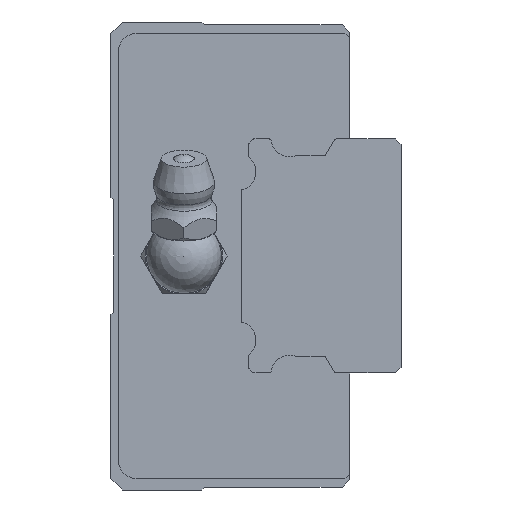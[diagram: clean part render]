
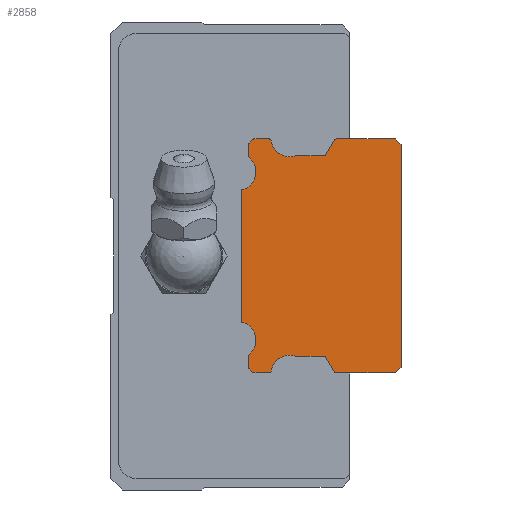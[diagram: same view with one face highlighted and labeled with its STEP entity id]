
A CAD part, left-side view. The second image highlights one B-rep face of the part: STEP entity #2858.
In plain terms, the highlighted planar face has unit normal (-1, 0, 0).
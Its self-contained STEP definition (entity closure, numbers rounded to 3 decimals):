
#93=CIRCLE('',#3042,0.2);
#95=CIRCLE('',#3045,2.);
#97=CIRCLE('',#3049,0.3);
#99=CIRCLE('',#3053,0.3);
#107=CIRCLE('',#3067,0.3);
#109=CIRCLE('',#3071,0.3);
#111=CIRCLE('',#3075,2.);
#113=CIRCLE('',#3078,0.2);
#115=CIRCLE('',#3082,0.2);
#117=CIRCLE('',#3086,0.2);
#119=CIRCLE('',#3090,2.);
#127=CIRCLE('',#3100,2.);
#129=CIRCLE('',#3104,0.2);
#131=CIRCLE('',#3108,0.2);
#448=ORIENTED_EDGE('',*,*,#1082,.F.);
#449=ORIENTED_EDGE('',*,*,#1182,.F.);
#450=ORIENTED_EDGE('',*,*,#1179,.F.);
#451=ORIENTED_EDGE('',*,*,#1176,.F.);
#452=ORIENTED_EDGE('',*,*,#1173,.F.);
#453=ORIENTED_EDGE('',*,*,#1170,.T.);
#454=ORIENTED_EDGE('',*,*,#1167,.F.);
#455=ORIENTED_EDGE('',*,*,#1158,.T.);
#456=ORIENTED_EDGE('',*,*,#1155,.F.);
#457=ORIENTED_EDGE('',*,*,#1152,.F.);
#458=ORIENTED_EDGE('',*,*,#1149,.F.);
#459=ORIENTED_EDGE('',*,*,#1146,.F.);
#460=ORIENTED_EDGE('',*,*,#1143,.F.);
#461=ORIENTED_EDGE('',*,*,#1140,.F.);
#462=ORIENTED_EDGE('',*,*,#1137,.T.);
#463=ORIENTED_EDGE('',*,*,#1134,.F.);
#464=ORIENTED_EDGE('',*,*,#1131,.T.);
#465=ORIENTED_EDGE('',*,*,#1128,.F.);
#466=ORIENTED_EDGE('',*,*,#1125,.F.);
#467=ORIENTED_EDGE('',*,*,#1122,.F.);
#468=ORIENTED_EDGE('',*,*,#1119,.F.);
#469=ORIENTED_EDGE('',*,*,#1116,.F.);
#470=ORIENTED_EDGE('',*,*,#1107,.F.);
#471=ORIENTED_EDGE('',*,*,#1104,.F.);
#472=ORIENTED_EDGE('',*,*,#1101,.F.);
#473=ORIENTED_EDGE('',*,*,#1098,.F.);
#474=ORIENTED_EDGE('',*,*,#1095,.T.);
#475=ORIENTED_EDGE('',*,*,#1092,.F.);
#476=ORIENTED_EDGE('',*,*,#1089,.T.);
#477=ORIENTED_EDGE('',*,*,#1086,.F.);
#1082=EDGE_CURVE('',#1480,#1481,#1769,.T.);
#1086=EDGE_CURVE('',#1481,#1484,#93,.T.);
#1089=EDGE_CURVE('',#1486,#1484,#95,.T.);
#1092=EDGE_CURVE('',#1486,#1488,#1775,.T.);
#1095=EDGE_CURVE('',#1490,#1488,#97,.T.);
#1098=EDGE_CURVE('',#1490,#1492,#1779,.T.);
#1101=EDGE_CURVE('',#1492,#1494,#99,.T.);
#1104=EDGE_CURVE('',#1494,#1496,#1783,.T.);
#1107=EDGE_CURVE('',#1496,#1498,#1786,.T.);
#1116=EDGE_CURVE('',#1498,#1506,#1789,.T.);
#1119=EDGE_CURVE('',#1506,#1508,#1792,.T.);
#1122=EDGE_CURVE('',#1508,#1510,#1795,.T.);
#1125=EDGE_CURVE('',#1510,#1512,#107,.T.);
#1128=EDGE_CURVE('',#1512,#1514,#1799,.T.);
#1131=EDGE_CURVE('',#1516,#1514,#109,.T.);
#1134=EDGE_CURVE('',#1516,#1518,#1803,.T.);
#1137=EDGE_CURVE('',#1520,#1518,#111,.T.);
#1140=EDGE_CURVE('',#1520,#1522,#113,.T.);
#1143=EDGE_CURVE('',#1522,#1524,#1808,.T.);
#1146=EDGE_CURVE('',#1524,#1526,#115,.T.);
#1149=EDGE_CURVE('',#1526,#1528,#1812,.T.);
#1152=EDGE_CURVE('',#1528,#1530,#117,.T.);
#1155=EDGE_CURVE('',#1530,#1532,#1816,.T.);
#1158=EDGE_CURVE('',#1534,#1532,#119,.T.);
#1167=EDGE_CURVE('',#1534,#1542,#1820,.T.);
#1170=EDGE_CURVE('',#1544,#1542,#127,.T.);
#1173=EDGE_CURVE('',#1544,#1546,#1824,.T.);
#1176=EDGE_CURVE('',#1546,#1548,#129,.T.);
#1179=EDGE_CURVE('',#1548,#1550,#1828,.T.);
#1182=EDGE_CURVE('',#1550,#1480,#131,.T.);
#1480=VERTEX_POINT('',#4232);
#1481=VERTEX_POINT('',#4233);
#1484=VERTEX_POINT('',#4241);
#1486=VERTEX_POINT('',#4247);
#1488=VERTEX_POINT('',#4253);
#1490=VERTEX_POINT('',#4259);
#1492=VERTEX_POINT('',#4265);
#1494=VERTEX_POINT('',#4271);
#1496=VERTEX_POINT('',#4277);
#1498=VERTEX_POINT('',#4283);
#1506=VERTEX_POINT('',#4301);
#1508=VERTEX_POINT('',#4307);
#1510=VERTEX_POINT('',#4313);
#1512=VERTEX_POINT('',#4319);
#1514=VERTEX_POINT('',#4325);
#1516=VERTEX_POINT('',#4331);
#1518=VERTEX_POINT('',#4337);
#1520=VERTEX_POINT('',#4343);
#1522=VERTEX_POINT('',#4349);
#1524=VERTEX_POINT('',#4355);
#1526=VERTEX_POINT('',#4361);
#1528=VERTEX_POINT('',#4367);
#1530=VERTEX_POINT('',#4373);
#1532=VERTEX_POINT('',#4379);
#1534=VERTEX_POINT('',#4385);
#1542=VERTEX_POINT('',#4403);
#1544=VERTEX_POINT('',#4409);
#1546=VERTEX_POINT('',#4415);
#1548=VERTEX_POINT('',#4421);
#1550=VERTEX_POINT('',#4427);
#1769=LINE('',#4231,#2005);
#1775=LINE('',#4252,#2011);
#1779=LINE('',#4264,#2015);
#1783=LINE('',#4276,#2019);
#1786=LINE('',#4282,#2022);
#1789=LINE('',#4300,#2025);
#1792=LINE('',#4306,#2028);
#1795=LINE('',#4312,#2031);
#1799=LINE('',#4324,#2035);
#1803=LINE('',#4336,#2039);
#1808=LINE('',#4354,#2044);
#1812=LINE('',#4366,#2048);
#1816=LINE('',#4378,#2052);
#1820=LINE('',#4402,#2056);
#1824=LINE('',#4414,#2060);
#1828=LINE('',#4426,#2064);
#2005=VECTOR('',#3361,1000.);
#2011=VECTOR('',#3381,1000.);
#2015=VECTOR('',#3393,1000.);
#2019=VECTOR('',#3405,1000.);
#2022=VECTOR('',#3410,1000.);
#2025=VECTOR('',#3427,1000.);
#2028=VECTOR('',#3432,1000.);
#2031=VECTOR('',#3437,1000.);
#2035=VECTOR('',#3449,1000.);
#2039=VECTOR('',#3461,1000.);
#2044=VECTOR('',#3480,1000.);
#2048=VECTOR('',#3492,1000.);
#2052=VECTOR('',#3504,1000.);
#2056=VECTOR('',#3528,1000.);
#2060=VECTOR('',#3540,1000.);
#2064=VECTOR('',#3552,1000.);
#2284=EDGE_LOOP('',(#448,#449,#450,#451,#452,#453,#454,#455,#456,#457,#458,
#459,#460,#461,#462,#463,#464,#465,#466,#467,#468,#469,#470,#471,#472,#473,
#474,#475,#476,#477));
#2527=FACE_BOUND('',#2284,.T.);
#2750=PLANE('',#3111);
#2858=ADVANCED_FACE('',(#2527),#2750,.F.);
#3042=AXIS2_PLACEMENT_3D('',#4240,#3367,#3368);
#3045=AXIS2_PLACEMENT_3D('',#4246,#3374,#3375);
#3049=AXIS2_PLACEMENT_3D('',#4258,#3386,#3387);
#3053=AXIS2_PLACEMENT_3D('',#4270,#3398,#3399);
#3067=AXIS2_PLACEMENT_3D('',#4318,#3442,#3443);
#3071=AXIS2_PLACEMENT_3D('',#4330,#3454,#3455);
#3075=AXIS2_PLACEMENT_3D('',#4342,#3466,#3467);
#3078=AXIS2_PLACEMENT_3D('',#4348,#3473,#3474);
#3082=AXIS2_PLACEMENT_3D('',#4360,#3485,#3486);
#3086=AXIS2_PLACEMENT_3D('',#4372,#3497,#3498);
#3090=AXIS2_PLACEMENT_3D('',#4384,#3509,#3510);
#3100=AXIS2_PLACEMENT_3D('',#4408,#3533,#3534);
#3104=AXIS2_PLACEMENT_3D('',#4420,#3545,#3546);
#3108=AXIS2_PLACEMENT_3D('',#4432,#3557,#3558);
#3111=AXIS2_PLACEMENT_3D('',#4435,#3563,#3564);
#3361=DIRECTION('',(0.,-1.,0.));
#3367=DIRECTION('',(1.,0.,0.));
#3368=DIRECTION('',(0.,0.,-1.));
#3374=DIRECTION('',(1.,0.,0.));
#3375=DIRECTION('',(0.,0.,-1.));
#3381=DIRECTION('',(0.,-1.,0.));
#3386=DIRECTION('',(1.,0.,0.));
#3387=DIRECTION('',(0.,0.,-1.));
#3393=DIRECTION('',(0.,-0.506,0.862));
#3398=DIRECTION('',(1.,0.,0.));
#3399=DIRECTION('',(0.,0.,-1.));
#3405=DIRECTION('',(0.,-1.,0.));
#3410=DIRECTION('',(0.,-0.707,-0.707));
#3427=DIRECTION('',(0.,0.,-1.));
#3432=DIRECTION('',(0.,0.707,-0.707));
#3437=DIRECTION('',(0.,1.,0.));
#3442=DIRECTION('',(1.,0.,0.));
#3443=DIRECTION('',(0.,0.,-1.));
#3449=DIRECTION('',(0.,0.506,0.862));
#3454=DIRECTION('',(1.,0.,0.));
#3455=DIRECTION('',(0.,0.,-1.));
#3461=DIRECTION('',(0.,1.,0.));
#3466=DIRECTION('',(1.,0.,0.));
#3467=DIRECTION('',(0.,0.,-1.));
#3473=DIRECTION('',(1.,0.,0.));
#3474=DIRECTION('',(0.,0.,-1.));
#3480=DIRECTION('',(0.,1.,0.));
#3485=DIRECTION('',(1.,0.,0.));
#3486=DIRECTION('',(0.,0.,-1.));
#3492=DIRECTION('',(0.,0.707,0.707));
#3497=DIRECTION('',(1.,0.,0.));
#3498=DIRECTION('',(0.,0.,-1.));
#3504=DIRECTION('',(0.,0.,1.));
#3509=DIRECTION('',(1.,0.,0.));
#3510=DIRECTION('',(0.,0.,-1.));
#3528=DIRECTION('',(0.,0.,1.));
#3533=DIRECTION('',(1.,0.,0.));
#3534=DIRECTION('',(0.,0.,-1.));
#3540=DIRECTION('',(0.,0.,1.));
#3545=DIRECTION('',(1.,0.,0.));
#3546=DIRECTION('',(0.,0.,-1.));
#3552=DIRECTION('',(0.,-0.707,0.707));
#3557=DIRECTION('',(1.,0.,0.));
#3558=DIRECTION('',(0.,0.,-1.));
#3563=DIRECTION('',(1.,0.,0.));
#3564=DIRECTION('',(0.,0.,-1.));
#4231=CARTESIAN_POINT('',(-15.,15.717,12.5));
#4232=CARTESIAN_POINT('',(-15.,15.717,12.5));
#4233=CARTESIAN_POINT('',(-15.,14.079,12.5));
#4240=CARTESIAN_POINT('',(-15.,14.079,12.3));
#4241=CARTESIAN_POINT('',(-15.,13.881,12.327));
#4246=CARTESIAN_POINT('',(-15.,11.9,12.6));
#4247=CARTESIAN_POINT('',(-15.,11.276,10.7));
#4252=CARTESIAN_POINT('',(-15.,11.276,10.7));
#4253=CARTESIAN_POINT('',(-15.,8.3,10.7));
#4258=CARTESIAN_POINT('',(-15.,8.3,11.));
#4259=CARTESIAN_POINT('',(-15.,8.041,10.848));
#4264=CARTESIAN_POINT('',(-15.,8.041,10.848));
#4265=CARTESIAN_POINT('',(-15.,7.159,12.352));
#4270=CARTESIAN_POINT('',(-15.,6.9,12.2));
#4271=CARTESIAN_POINT('',(-15.,6.9,12.5));
#4276=CARTESIAN_POINT('',(-15.,6.9,12.5));
#4277=CARTESIAN_POINT('',(-15.,0.6,12.5));
#4282=CARTESIAN_POINT('',(-15.,0.6,12.5));
#4283=CARTESIAN_POINT('',(-15.,0.,11.9));
#4300=CARTESIAN_POINT('',(-15.,0.,11.9));
#4301=CARTESIAN_POINT('',(-15.,0.,-11.9));
#4306=CARTESIAN_POINT('',(-15.,0.,-11.9));
#4307=CARTESIAN_POINT('',(-15.,0.6,-12.5));
#4312=CARTESIAN_POINT('',(-15.,0.6,-12.5));
#4313=CARTESIAN_POINT('',(-15.,6.9,-12.5));
#4318=CARTESIAN_POINT('',(-15.,6.9,-12.2));
#4319=CARTESIAN_POINT('',(-15.,7.159,-12.352));
#4324=CARTESIAN_POINT('',(-15.,7.159,-12.352));
#4325=CARTESIAN_POINT('',(-15.,8.041,-10.848));
#4330=CARTESIAN_POINT('',(-15.,8.3,-11.));
#4331=CARTESIAN_POINT('',(-15.,8.3,-10.7));
#4336=CARTESIAN_POINT('',(-15.,8.3,-10.7));
#4337=CARTESIAN_POINT('',(-15.,11.276,-10.7));
#4342=CARTESIAN_POINT('',(-15.,11.9,-12.6));
#4343=CARTESIAN_POINT('',(-15.,13.881,-12.327));
#4348=CARTESIAN_POINT('',(-15.,14.079,-12.3));
#4349=CARTESIAN_POINT('',(-15.,14.079,-12.5));
#4354=CARTESIAN_POINT('',(-15.,14.079,-12.5));
#4355=CARTESIAN_POINT('',(-15.,15.717,-12.5));
#4360=CARTESIAN_POINT('',(-15.,15.717,-12.3));
#4361=CARTESIAN_POINT('',(-15.,15.859,-12.441));
#4366=CARTESIAN_POINT('',(-15.,15.859,-12.441));
#4367=CARTESIAN_POINT('',(-15.,16.241,-12.059));
#4372=CARTESIAN_POINT('',(-15.,16.1,-11.917));
#4373=CARTESIAN_POINT('',(-15.,16.3,-11.917));
#4378=CARTESIAN_POINT('',(-15.,16.3,-11.917));
#4379=CARTESIAN_POINT('',(-15.,16.3,-10.6));
#4384=CARTESIAN_POINT('',(-15.,17.5,-9.));
#4385=CARTESIAN_POINT('',(-15.,17.,-7.064));
#4402=CARTESIAN_POINT('',(-15.,17.,-7.064));
#4403=CARTESIAN_POINT('',(-15.,17.,7.064));
#4408=CARTESIAN_POINT('',(-15.,17.5,9.));
#4409=CARTESIAN_POINT('',(-15.,16.3,10.6));
#4414=CARTESIAN_POINT('',(-15.,16.3,10.6));
#4415=CARTESIAN_POINT('',(-15.,16.3,11.917));
#4420=CARTESIAN_POINT('',(-15.,16.1,11.917));
#4421=CARTESIAN_POINT('',(-15.,16.241,12.059));
#4426=CARTESIAN_POINT('',(-15.,16.241,12.059));
#4427=CARTESIAN_POINT('',(-15.,15.859,12.441));
#4432=CARTESIAN_POINT('',(-15.,15.717,12.3));
#4435=CARTESIAN_POINT('',(-15.,14.079,12.3));
